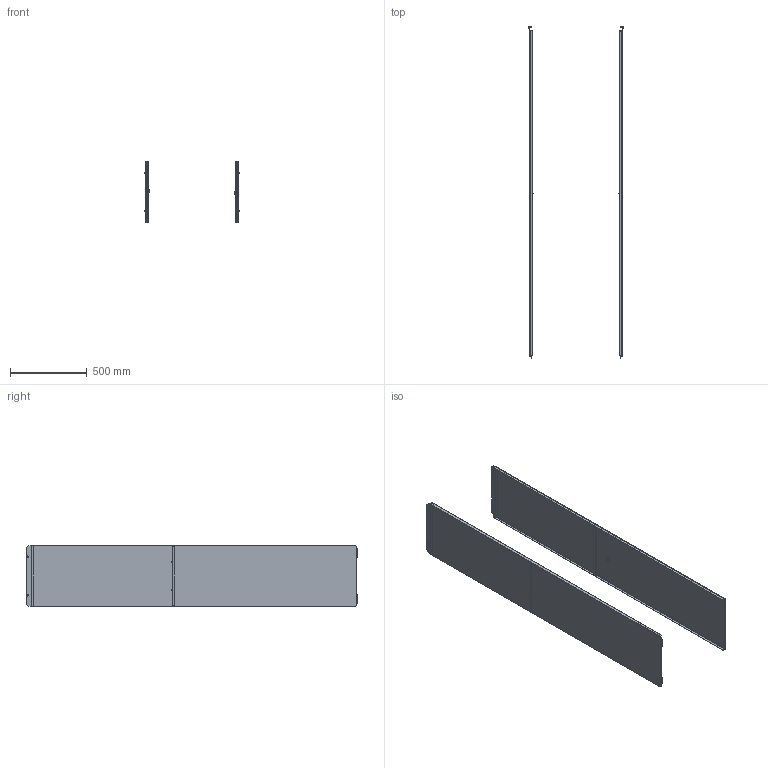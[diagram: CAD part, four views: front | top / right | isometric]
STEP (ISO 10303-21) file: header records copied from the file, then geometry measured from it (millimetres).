
FILE_DESCRIPTION((''),'2;1');
FILE_NAME('SIDE_PANELS_KIT_PILOT_230109_ASM','2023-04-04T15:14:14',('juliahuynh'),('Facebook, INC'),'CREO PARAMETRIC BY PTC INC, 2022024','CREO PARAMETRIC BY PTC INC, 2022024','');
FILE_SCHEMA(('AUTOMOTIVE_DESIGN { 1 0 10303 214 1 1 1 1 }'));
Products named in the file (15): C32014_1_1_PILOT_230109; C32015_1_1_PILOT_230109; WELD_ID_171_1_1_PILOT_230109; WELD_ID_493_1_1_1_PILOT_230109; WELD_ID_493_1_2_1_PILOT_230109; WELD_ID_493_1_PILOT_230109_ASM; C32014_WLD_PILOT_230109_ASM; 478517_1_1_PILOT_230109; 406087_1_1_PILOT_230109; C32014_PNT_PILOT_230109_ASM; 429275__1_1_PILOT_230109; 416435_BULK_1_1_PILOT_230109; C32014_KIT_PILOT_230109_ASM; C32014_ASM_PILOT_230109_ASM; SIDE_PANELS_KIT_PILOT_230109_ASM
Assembly tree (21 placements, depth 6):
  SIDE_PANELS_KIT_PILOT_230109_ASM
    C32014_ASM_PILOT_230109_ASM  x2
      C32014_PNT_PILOT_230109_ASM
        C32014_WLD_PILOT_230109_ASM
          C32014_1_1_PILOT_230109
          C32015_1_1_PILOT_230109  x2
          WELD_ID_171_1_1_PILOT_230109
          WELD_ID_493_1_PILOT_230109_ASM
            WELD_ID_493_1_1_1_PILOT_230109
            WELD_ID_493_1_2_1_PILOT_230109
        478517_1_1_PILOT_230109
        406087_1_1_PILOT_230109
      C32014_KIT_PILOT_230109_ASM
        429275__1_1_PILOT_230109  x2
        416435_BULK_1_1_PILOT_230109
    429275__1_1_PILOT_230109  x4
Bounding box: 613.44 x 2161.76 x 399.74 mm (x, y, z)
Volume: 2340443 mm3; surface area: 7828365.9 mm2
Topology: 20 solids, 26 shells, 1194 faces, 3208 edges, 2082 vertices
Faces by surface type: plane 582, cylinder 442, bspline 88, cone 66, torus 16
Entity records: 14921 total; most frequent: CARTESIAN_POINT 4595, DIRECTION 1690, ORIENTED_EDGE 1530, EDGE_CURVE 765, AXIS2_PLACEMENT_3D 576, VECTOR 498, LINE 498, VERTEX_POINT 478
